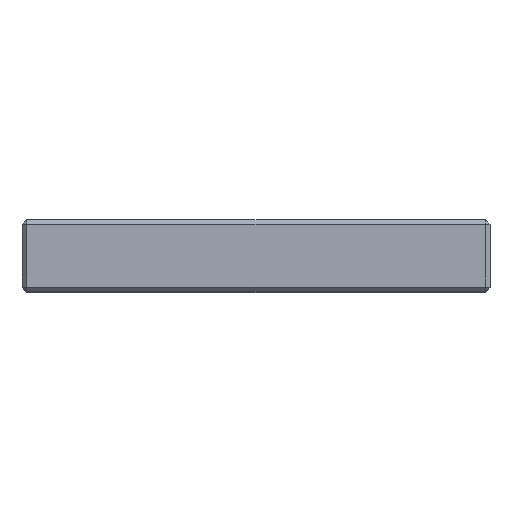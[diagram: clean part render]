
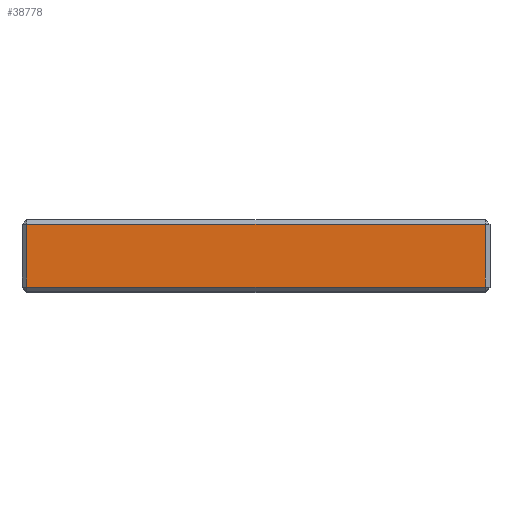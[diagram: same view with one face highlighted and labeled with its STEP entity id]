
A CAD part, top view. The second image highlights one B-rep face of the part: STEP entity #38778.
In plain terms, the highlighted planar face has unit normal (0, 0, 1).
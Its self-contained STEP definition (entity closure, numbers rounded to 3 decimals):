
#58=DIRECTION('',(0.,1.,0.));
#59=VECTOR('',#58,8.73);
#60=CARTESIAN_POINT('',(-64.365,-9.365,0.));
#61=LINE('',#60,#59);
#66=DIRECTION('',(1.,0.,0.));
#67=VECTOR('',#66,63.73);
#68=CARTESIAN_POINT('',(-64.365,-0.635,0.));
#69=LINE('',#68,#67);
#928=DIRECTION('',(-1.,0.,0.));
#929=VECTOR('',#928,63.73);
#930=CARTESIAN_POINT('',(-0.635,-9.365,0.));
#931=LINE('',#930,#929);
#948=DIRECTION('',(0.,-1.,0.));
#949=VECTOR('',#948,8.73);
#950=CARTESIAN_POINT('',(-0.635,-0.635,0.));
#951=LINE('',#950,#949);
#36244=CARTESIAN_POINT('',(-64.365,-9.365,0.));
#36245=CARTESIAN_POINT('',(-64.365,-0.635,0.));
#36246=VERTEX_POINT('',#36244);
#36247=VERTEX_POINT('',#36245);
#36276=CARTESIAN_POINT('',(-0.635,-9.365,0.));
#36277=VERTEX_POINT('',#36276);
#36351=CARTESIAN_POINT('',(-0.635,-0.635,0.));
#36353=VERTEX_POINT('',#36351);
#38764=CARTESIAN_POINT('',(-65.,0.,0.));
#38765=DIRECTION('',(0.,0.,-1.));
#38766=DIRECTION('',(0.,1.,0.));
#38767=AXIS2_PLACEMENT_3D('',#38764,#38765,#38766);
#38768=PLANE('',#38767);
#38769=ORIENTED_EDGE('',*,*,#38755,.T.);
#38771=ORIENTED_EDGE('',*,*,#38770,.T.);
#38773=ORIENTED_EDGE('',*,*,#38772,.T.);
#38775=ORIENTED_EDGE('',*,*,#38774,.T.);
#38776=EDGE_LOOP('',(#38769,#38771,#38773,#38775));
#38777=FACE_OUTER_BOUND('',#38776,.F.);
#38778=ADVANCED_FACE('',(#38777),#38768,.F.);
#38755=EDGE_CURVE('',#36246,#36247,#61,.T.);
#38770=EDGE_CURVE('',#36247,#36353,#69,.T.);
#38772=EDGE_CURVE('',#36353,#36277,#951,.T.);
#38774=EDGE_CURVE('',#36277,#36246,#931,.T.);
